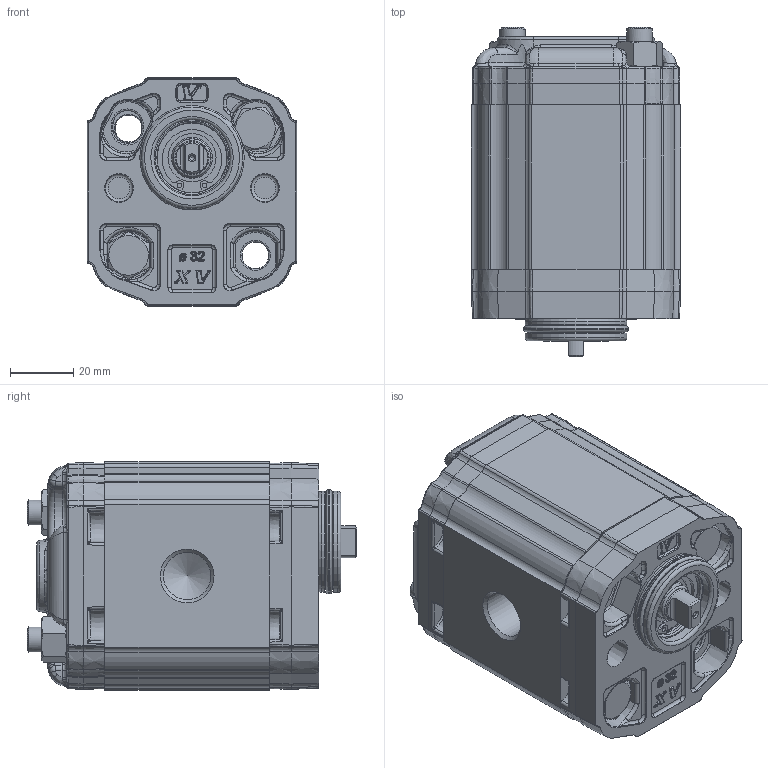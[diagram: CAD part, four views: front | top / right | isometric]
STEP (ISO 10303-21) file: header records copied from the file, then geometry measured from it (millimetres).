
FILE_DESCRIPTION(/* description */ ('Unknown'),/* implementation_level */ '2;1');
FILE_NAME(/* name */ 'X1P2552DBBA',/* time_stamp */ '2026-05-26T18:28:26+02:00',/* author */ ('Unknown'),/* organization */ ('Unknown'),/* preprocessor_version */ 'ST-DEVELOPER v16.7',/* originating_system */ 'Solid Edge',/* authorisation */ 'Unknown');
FILE_SCHEMA (('AUTOMOTIVE_DESIGN {1 0 10303 214 3 1 1}'));
Products named in the file (5): X1P2552DBBA; X1P52; 1D; X1BBH52; XP140-A
Assembly tree (4 placements, depth 2):
  X1P2552DBBA
    X1P52
    1D
    X1BBH52
    XP140-A
Bounding box: 66 x 103.99 x 72 mm (x, y, z)
Volume: 331253.9 mm3; surface area: 66054.7 mm2
Topology: 4 solids, 5 shells, 2558 faces, 6060 edges, 3556 vertices
Faces by surface type: cylinder 761, bspline 645, plane 553, torus 273, cone 241, sphere 85
Full cylindrical faces by diameter (mm): 1.447 x2, 1.5 x1, 8 x6, 8.5 x3, 9 x2, 10 x1, 10.5 x2, 11.965 x1, 12 x3, 12.923 x1, 14.95 x2, 15.115 x1, 15.181 x1, 19 x1, 20 x1, 22 x2, 22.2 x1, 23 x1, 24 x1, 29.4 x2, 32 x1, 32.96 x1
Entity records: 138333 total; most frequent: CARTESIAN_POINT 65514, ORIENTED_EDGE 11688, DIRECTION 10972, EDGE_CURVE 5844, AXIS2_PLACEMENT_3D 4537, VERTEX_POINT 3508, FACE_BOUND 2790, EDGE_LOOP 2786
